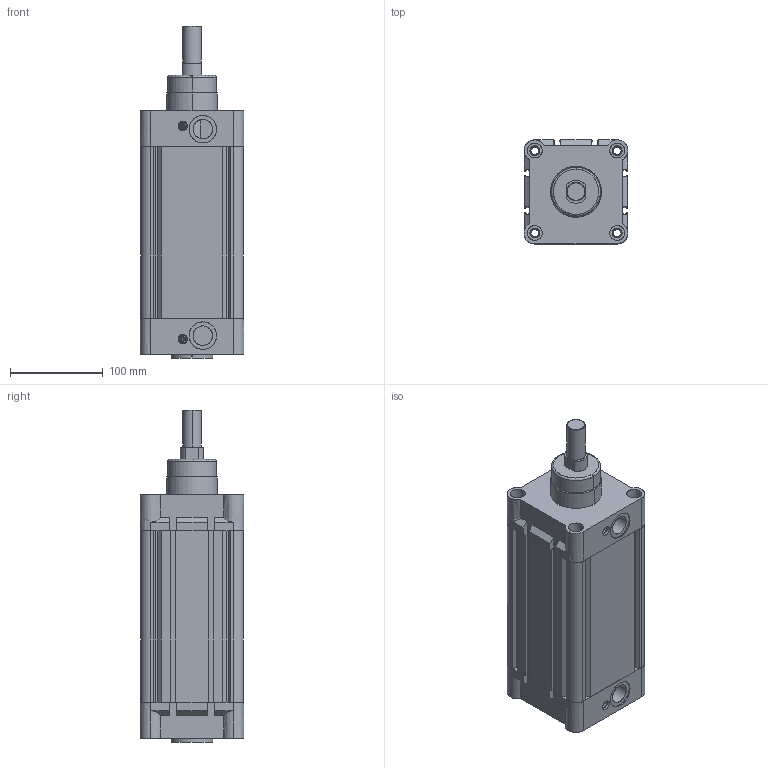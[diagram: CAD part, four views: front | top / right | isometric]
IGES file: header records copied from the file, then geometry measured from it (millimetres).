
Start section: SolidWorks IGES file using analytic representation for surfaces
Global section: file name: D:\ARICA 3D ÇÝZÝMLER\3D IGES\DNCAT-S DÖNMEZ MÝLLÝ SERÝSÝ\DNCAT-S 100\DNCAT-S-100X125CYLINDER.IGS; native system: SolidWorks 2013; preprocessor: SolidWorks 2013; author: user; date: 161221.115958; units: millimetre
Bounding box: 112 x 112 x 358.65 mm (x, y, z)
Surface area: 354000.6 mm2 (no closed solid volume)
Topology: 0 solids, 0 shells, 307 faces, 5071 edges, 5068 vertices
Faces by surface type: bspline 196, revolution 111
